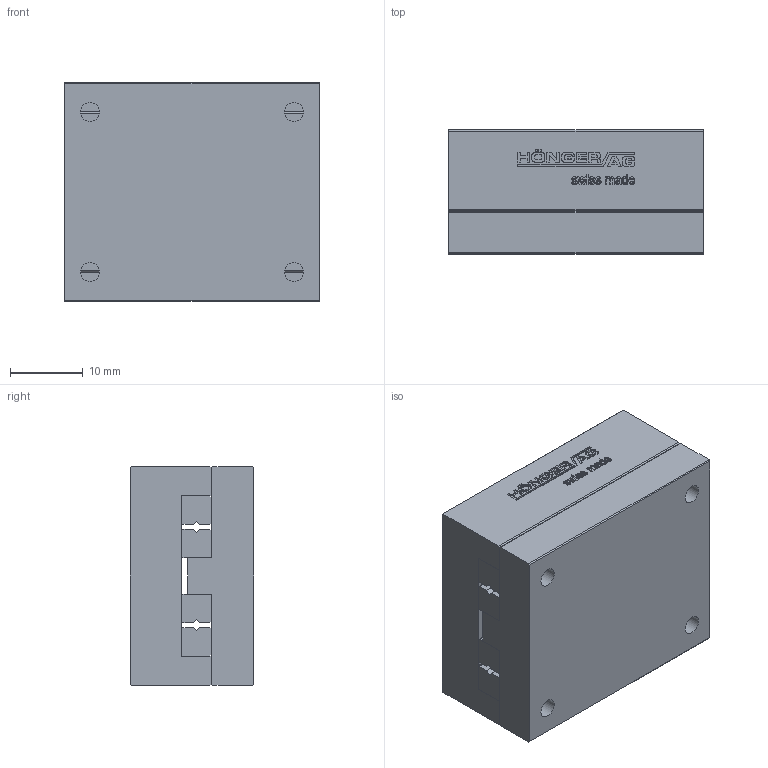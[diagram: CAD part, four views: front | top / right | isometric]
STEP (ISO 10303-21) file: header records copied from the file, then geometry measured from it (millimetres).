
FILE_DESCRIPTION(/* description */ ('STEP AP214'),/* implementation_level */ '2;1');
FILE_NAME(/* name */ 'NK 1-35-B(0)',/* time_stamp */ '2025-04-22T17:46:49+02:00',/* author */ ('License CC BY-ND 4.0'),/* organization */ ('CADENAS'),/* preprocessor_version */ 'ST-DEVELOPER v19.3',/* originating_system */ 'PARTsolutions',/* authorisation */ ' ');
FILE_SCHEMA (('AUTOMOTIVE_DESIGN {1 0 10303 214 3 1 1}'));
Length unit declared in the file: millimetre
Products named in the file (3): NK 1-35-B(0); NK 1-35-B_1; NK 1-35-B_2
Assembly tree (2 placements, depth 2):
  NK 1-35-B(0)
    NK 1-35-B_1
    NK 1-35-B_2
Bounding box: 35 x 17 x 30 mm (x, y, z)
Volume: 17081.4 mm3; surface area: 8476.6 mm2
Topology: 2 solids, 2 shells, 597 faces, 1650 edges, 1092 vertices
Faces by surface type: cylinder 304, plane 285, cone 8
Full cylindrical faces by diameter (mm): 1.567 x4, 2.6 x4, 4.1 x4
Entity records: 19215 total; most frequent: DIRECTION 3446, CARTESIAN_POINT 3322, ORIENTED_EDGE 3260, EDGE_CURVE 1630, AXIS2_PLACEMENT_3D 1216, VERTEX_POINT 1092, LINE 1014, VECTOR 1014
